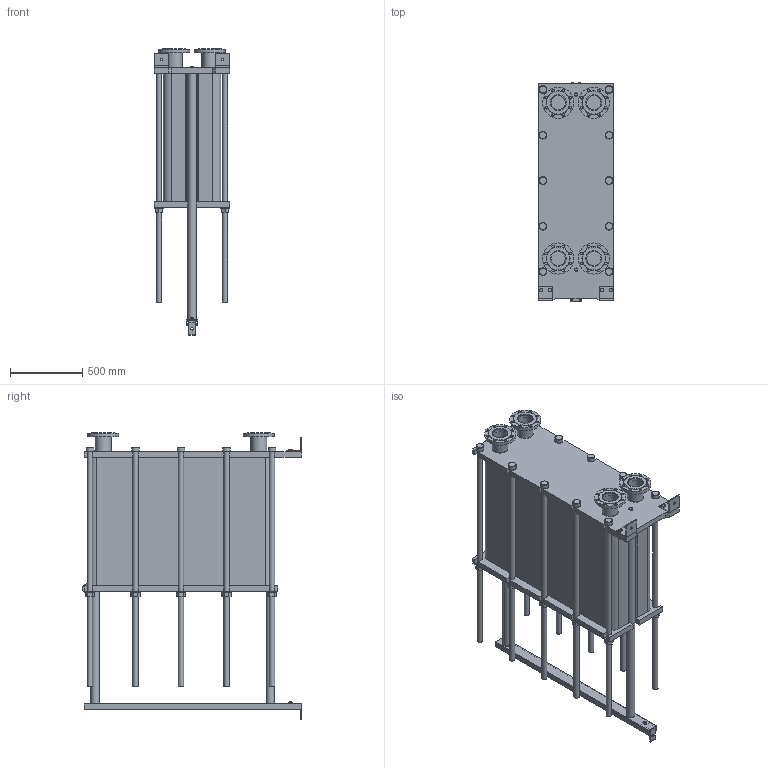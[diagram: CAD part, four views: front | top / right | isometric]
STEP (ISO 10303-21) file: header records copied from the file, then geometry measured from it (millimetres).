
FILE_DESCRIPTION(/* description */ (''),/* implementation_level */ '2;1');
FILE_NAME(/* name */ 'C:\Users\zhuro\Desktop\ENCO\TO\ЭН-04\ЭН-0,5-04-257-1.stp',/* time_stamp */ '2022-06-06T11:07:10+03:00',/* author */ ('zhuro'),/* organization */ (''),/* preprocessor_version */ 'ST-DEVELOPER v18.1',/* originating_system */ 'Autodesk Inventor 2022',/* authorisation */ '');
FILE_SCHEMA (('AUTOMOTIVE_DESIGN { 1 0 10303 214 3 1 1 }'));
Length unit declared in the file: millimetre
Products named in the file (1): ЭН-0,5-04-257-1
Bounding box: 520 x 1510 x 1978.5 mm (x, y, z)
Volume: 522766126.8 mm3; surface area: 11807706.8 mm2
Topology: 45 solids, 45 shells, 668 faces, 1611 edges, 1048 vertices
Faces by surface type: plane 457, cylinder 166, cone 39, torus 6
Full cylindrical faces by diameter (mm): 8 x4, 10 x2, 16 x8, 18 x35, 36 x25, 40 x2, 42 x1, 45 x4, 54 x10, 57 x2, 60 x10, 68 x2, 100 x4, 110 x8, 215 x4
Entity records: 23607 total; most frequent: CARTESIAN_POINT 7348, DIRECTION 3371, ORIENTED_EDGE 3142, EDGE_CURVE 1571, AXIS2_PLACEMENT_3D 1199, VERTEX_POINT 1044, LINE 973, VECTOR 973
